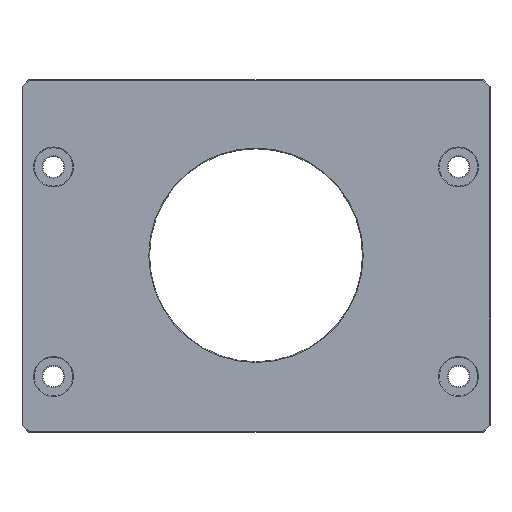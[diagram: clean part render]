
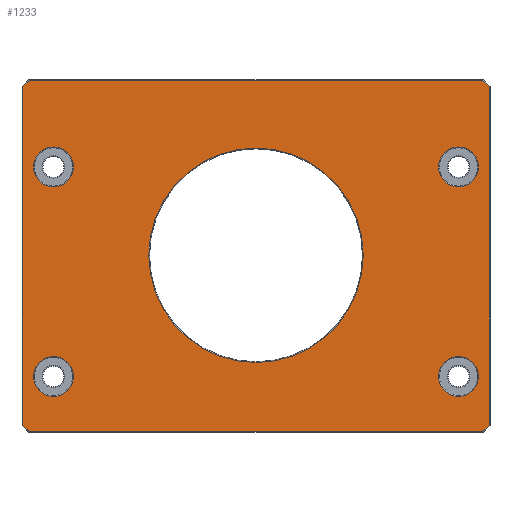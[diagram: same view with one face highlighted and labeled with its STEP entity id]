
A CAD part, top view. The second image highlights one B-rep face of the part: STEP entity #1233.
In plain terms, the highlighted planar face has unit normal (0, 0, 1).
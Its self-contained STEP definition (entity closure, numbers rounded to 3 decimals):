
#160=CARTESIAN_POINT('',(-58.,-34.7,12.));
#161=DIRECTION('',(0.,0.,-1.));
#162=DIRECTION('',(-1.,0.,0.));
#163=AXIS2_PLACEMENT_3D('',#160,#161,#162);
#165=CARTESIAN_POINT('',(-58.,-34.7,12.));
#166=DIRECTION('',(0.,0.,-1.));
#167=DIRECTION('',(1.,0.,0.));
#168=AXIS2_PLACEMENT_3D('',#165,#166,#167);
#170=CARTESIAN_POINT('',(58.,-34.7,12.));
#171=DIRECTION('',(0.,0.,-1.));
#172=DIRECTION('',(1.,0.,0.));
#173=AXIS2_PLACEMENT_3D('',#170,#171,#172);
#175=CARTESIAN_POINT('',(58.,-34.7,12.));
#176=DIRECTION('',(0.,0.,-1.));
#177=DIRECTION('',(-1.,0.,0.));
#178=AXIS2_PLACEMENT_3D('',#175,#176,#177);
#180=CARTESIAN_POINT('',(58.,25.3,12.));
#181=DIRECTION('',(0.,0.,-1.));
#182=DIRECTION('',(-1.,0.,0.));
#183=AXIS2_PLACEMENT_3D('',#180,#181,#182);
#185=CARTESIAN_POINT('',(58.,25.3,12.));
#186=DIRECTION('',(0.,0.,-1.));
#187=DIRECTION('',(1.,0.,0.));
#188=AXIS2_PLACEMENT_3D('',#185,#186,#187);
#190=CARTESIAN_POINT('',(0.,0.,12.));
#191=DIRECTION('',(0.,0.,-1.));
#192=DIRECTION('',(1.,0.,0.));
#193=AXIS2_PLACEMENT_3D('',#190,#191,#192);
#195=CARTESIAN_POINT('',(0.,0.,12.));
#196=DIRECTION('',(0.,0.,-1.));
#197=DIRECTION('',(-1.,0.,0.));
#198=AXIS2_PLACEMENT_3D('',#195,#196,#197);
#200=CARTESIAN_POINT('',(-58.,25.3,12.));
#201=DIRECTION('',(0.,0.,-1.));
#202=DIRECTION('',(-1.,0.,0.));
#203=AXIS2_PLACEMENT_3D('',#200,#201,#202);
#205=CARTESIAN_POINT('',(-58.,25.3,12.));
#206=DIRECTION('',(0.,0.,-1.));
#207=DIRECTION('',(1.,0.,0.));
#208=AXIS2_PLACEMENT_3D('',#205,#206,#207);
#210=DIRECTION('',(-0.707,-0.707,0.));
#211=VECTOR('',#210,2.663);
#212=CARTESIAN_POINT('',(-64.917,50.1,12.));
#213=LINE('',#212,#211);
#214=DIRECTION('',(-1.,0.,0.));
#215=VECTOR('',#214,129.834);
#216=CARTESIAN_POINT('',(64.917,50.1,12.));
#217=LINE('',#216,#215);
#218=DIRECTION('',(-0.707,0.707,0.));
#219=VECTOR('',#218,2.663);
#220=CARTESIAN_POINT('',(66.8,48.217,12.));
#221=LINE('',#220,#219);
#222=DIRECTION('',(0.,1.,0.));
#223=VECTOR('',#222,96.834);
#224=CARTESIAN_POINT('',(66.8,-48.617,12.));
#225=LINE('',#224,#223);
#226=DIRECTION('',(0.707,0.707,0.));
#227=VECTOR('',#226,2.663);
#228=CARTESIAN_POINT('',(64.917,-50.5,12.));
#229=LINE('',#228,#227);
#230=DIRECTION('',(1.,0.,0.));
#231=VECTOR('',#230,129.834);
#232=CARTESIAN_POINT('',(-64.917,-50.5,12.));
#233=LINE('',#232,#231);
#234=DIRECTION('',(0.707,-0.707,0.));
#235=VECTOR('',#234,2.663);
#236=CARTESIAN_POINT('',(-66.8,-48.617,12.));
#237=LINE('',#236,#235);
#238=DIRECTION('',(0.,-1.,0.));
#239=VECTOR('',#238,96.834);
#240=CARTESIAN_POINT('',(-66.8,48.217,12.));
#241=LINE('',#240,#239);
#905=CARTESIAN_POINT('',(-63.7,-34.7,12.));
#906=CARTESIAN_POINT('',(-52.3,-34.7,12.));
#907=VERTEX_POINT('',#905);
#908=VERTEX_POINT('',#906);
#913=CARTESIAN_POINT('',(63.7,-34.7,12.));
#914=CARTESIAN_POINT('',(52.3,-34.7,12.));
#915=VERTEX_POINT('',#913);
#916=VERTEX_POINT('',#914);
#921=CARTESIAN_POINT('',(52.3,25.3,12.));
#922=CARTESIAN_POINT('',(63.7,25.3,12.));
#923=VERTEX_POINT('',#921);
#924=VERTEX_POINT('',#922);
#929=CARTESIAN_POINT('',(30.7,0.,12.));
#930=CARTESIAN_POINT('',(-30.7,0.,12.));
#931=VERTEX_POINT('',#929);
#932=VERTEX_POINT('',#930);
#937=CARTESIAN_POINT('',(-63.7,25.3,12.));
#938=CARTESIAN_POINT('',(-52.3,25.3,12.));
#939=VERTEX_POINT('',#937);
#940=VERTEX_POINT('',#938);
#977=CARTESIAN_POINT('',(-64.917,50.1,12.));
#978=CARTESIAN_POINT('',(-66.8,48.217,12.));
#979=VERTEX_POINT('',#977);
#980=VERTEX_POINT('',#978);
#987=CARTESIAN_POINT('',(-66.8,-48.617,12.));
#988=VERTEX_POINT('',#987);
#991=CARTESIAN_POINT('',(-64.917,-50.5,12.));
#992=VERTEX_POINT('',#991);
#995=CARTESIAN_POINT('',(64.917,-50.5,12.));
#996=VERTEX_POINT('',#995);
#999=CARTESIAN_POINT('',(66.8,-48.617,12.));
#1000=VERTEX_POINT('',#999);
#1003=CARTESIAN_POINT('',(66.8,48.217,12.));
#1004=VERTEX_POINT('',#1003);
#1007=CARTESIAN_POINT('',(64.917,50.1,12.));
#1008=VERTEX_POINT('',#1007);
#1181=CARTESIAN_POINT('',(0.,0.,12.));
#1182=DIRECTION('',(0.,0.,1.));
#1183=DIRECTION('',(1.,0.,0.));
#1184=AXIS2_PLACEMENT_3D('',#1181,#1182,#1183);
#1185=PLANE('',#1184);
#1187=ORIENTED_EDGE('',*,*,#1186,.F.);
#1189=ORIENTED_EDGE('',*,*,#1188,.F.);
#1191=ORIENTED_EDGE('',*,*,#1190,.F.);
#1193=ORIENTED_EDGE('',*,*,#1192,.F.);
#1195=ORIENTED_EDGE('',*,*,#1194,.F.);
#1197=ORIENTED_EDGE('',*,*,#1196,.F.);
#1199=ORIENTED_EDGE('',*,*,#1198,.F.);
#1201=ORIENTED_EDGE('',*,*,#1200,.F.);
#1202=EDGE_LOOP('',(#1187,#1189,#1191,#1193,#1195,#1197,#1199,#1201));
#1203=FACE_OUTER_BOUND('',#1202,.F.);
#1205=ORIENTED_EDGE('',*,*,#1204,.F.);
#1207=ORIENTED_EDGE('',*,*,#1206,.F.);
#1208=EDGE_LOOP('',(#1205,#1207));
#1209=FACE_BOUND('',#1208,.F.);
#1211=ORIENTED_EDGE('',*,*,#1210,.F.);
#1213=ORIENTED_EDGE('',*,*,#1212,.F.);
#1214=EDGE_LOOP('',(#1211,#1213));
#1215=FACE_BOUND('',#1214,.F.);
#1216=ORIENTED_EDGE('',*,*,#1171,.F.);
#1218=ORIENTED_EDGE('',*,*,#1217,.F.);
#1219=EDGE_LOOP('',(#1216,#1218));
#1220=FACE_BOUND('',#1219,.F.);
#1222=ORIENTED_EDGE('',*,*,#1221,.F.);
#1224=ORIENTED_EDGE('',*,*,#1223,.F.);
#1225=EDGE_LOOP('',(#1222,#1224));
#1226=FACE_BOUND('',#1225,.F.);
#1228=ORIENTED_EDGE('',*,*,#1227,.F.);
#1230=ORIENTED_EDGE('',*,*,#1229,.F.);
#1231=EDGE_LOOP('',(#1228,#1230));
#1232=FACE_BOUND('',#1231,.F.);
#164=CIRCLE('',#163,5.7);
#169=CIRCLE('',#168,5.7);
#174=CIRCLE('',#173,5.7);
#179=CIRCLE('',#178,5.7);
#184=CIRCLE('',#183,5.7);
#189=CIRCLE('',#188,5.7);
#194=CIRCLE('',#193,30.7);
#199=CIRCLE('',#198,30.7);
#204=CIRCLE('',#203,5.7);
#209=CIRCLE('',#208,5.7);
#1171=EDGE_CURVE('',#931,#932,#194,.T.);
#1186=EDGE_CURVE('',#979,#980,#213,.T.);
#1188=EDGE_CURVE('',#1008,#979,#217,.T.);
#1190=EDGE_CURVE('',#1004,#1008,#221,.T.);
#1192=EDGE_CURVE('',#1000,#1004,#225,.T.);
#1194=EDGE_CURVE('',#996,#1000,#229,.T.);
#1196=EDGE_CURVE('',#992,#996,#233,.T.);
#1198=EDGE_CURVE('',#988,#992,#237,.T.);
#1200=EDGE_CURVE('',#980,#988,#241,.T.);
#1204=EDGE_CURVE('',#915,#916,#174,.T.);
#1206=EDGE_CURVE('',#916,#915,#179,.T.);
#1210=EDGE_CURVE('',#923,#924,#184,.T.);
#1212=EDGE_CURVE('',#924,#923,#189,.T.);
#1217=EDGE_CURVE('',#932,#931,#199,.T.);
#1221=EDGE_CURVE('',#939,#940,#204,.T.);
#1223=EDGE_CURVE('',#940,#939,#209,.T.);
#1227=EDGE_CURVE('',#907,#908,#164,.T.);
#1229=EDGE_CURVE('',#908,#907,#169,.T.);
#1233=ADVANCED_FACE('',(#1203,#1209,#1215,#1220,#1226,#1232),#1185,.T.);
